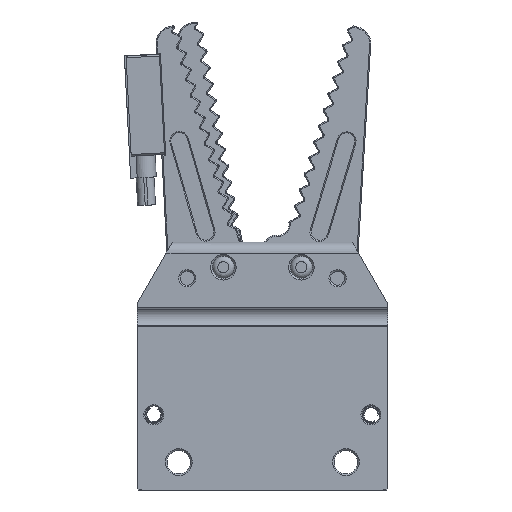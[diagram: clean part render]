
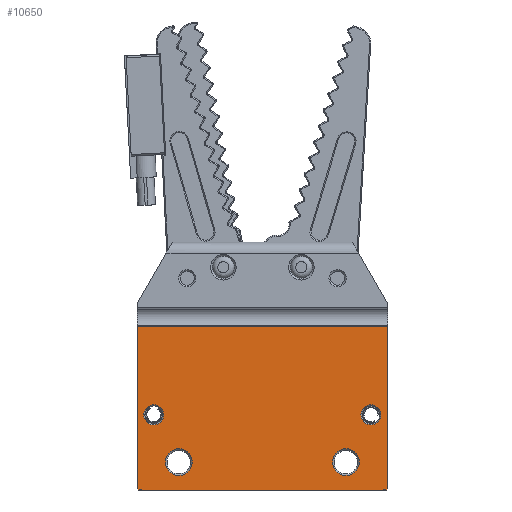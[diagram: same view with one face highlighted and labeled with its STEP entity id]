
A CAD part, front view. The second image highlights one B-rep face of the part: STEP entity #10650.
In plain terms, the highlighted planar face has unit normal (0, -1, 0).
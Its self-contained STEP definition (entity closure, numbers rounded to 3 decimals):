
#9858=FACE_BOUND('',#13333,.T.);
#9859=FACE_BOUND('',#13334,.T.);
#9860=FACE_BOUND('',#13335,.T.);
#9861=FACE_BOUND('',#13336,.T.);
#9862=FACE_BOUND('',#13337,.T.);
#10650=ADVANCED_FACE('',(#9858,#9859,#9860,#9861,#9862),#11824,.F.);
#11824=PLANE('',#27785);
#13333=EDGE_LOOP('',(#18172,#18173,#18174,#18175,#18176,#18177));
#13334=EDGE_LOOP('',(#18178));
#13335=EDGE_LOOP('',(#18179));
#13336=EDGE_LOOP('',(#18180));
#13337=EDGE_LOOP('',(#18181));
#14999=LINE('',#36794,#16329);
#15006=LINE('',#36807,#16336);
#15009=LINE('',#36827,#16339);
#15010=LINE('',#36831,#16340);
#15011=LINE('',#36835,#16341);
#15012=LINE('',#36837,#16342);
#16329=VECTOR('',#30515,1.);
#16336=VECTOR('',#30526,1.);
#16339=VECTOR('',#30551,1.);
#16340=VECTOR('',#30556,1.);
#16341=VECTOR('',#30561,1.);
#16342=VECTOR('',#30564,1.);
#18172=ORIENTED_EDGE('',*,*,#24487,.F.);
#18173=ORIENTED_EDGE('',*,*,#24507,.F.);
#18174=ORIENTED_EDGE('',*,*,#24505,.F.);
#18175=ORIENTED_EDGE('',*,*,#24503,.F.);
#18176=ORIENTED_EDGE('',*,*,#24494,.T.);
#18177=ORIENTED_EDGE('',*,*,#24508,.F.);
#18178=ORIENTED_EDGE('',*,*,#24501,.F.);
#18179=ORIENTED_EDGE('',*,*,#24499,.F.);
#18180=ORIENTED_EDGE('',*,*,#24498,.F.);
#18181=ORIENTED_EDGE('',*,*,#24497,.F.);
#22746=VERTEX_POINT('',#36792);
#22748=VERTEX_POINT('',#36795);
#22752=VERTEX_POINT('',#36808);
#22753=VERTEX_POINT('',#36809);
#22754=VERTEX_POINT('',#36814);
#22755=VERTEX_POINT('',#36817);
#22756=VERTEX_POINT('',#36820);
#22757=VERTEX_POINT('',#36824);
#22758=VERTEX_POINT('',#36828);
#22759=VERTEX_POINT('',#36832);
#24487=EDGE_CURVE('',#22746,#22748,#14999,.T.);
#24494=EDGE_CURVE('',#22752,#22753,#15006,.T.);
#24497=EDGE_CURVE('',#22754,#22754,#26698,.T.);
#24498=EDGE_CURVE('',#22755,#22755,#26699,.T.);
#24499=EDGE_CURVE('',#22756,#22756,#26700,.T.);
#24501=EDGE_CURVE('',#22757,#22757,#26702,.T.);
#24503=EDGE_CURVE('',#22752,#22758,#15009,.T.);
#24505=EDGE_CURVE('',#22758,#22759,#15010,.T.);
#24507=EDGE_CURVE('',#22759,#22746,#15011,.T.);
#24508=EDGE_CURVE('',#22748,#22753,#15012,.T.);
#26698=CIRCLE('',#27769,2.4);
#26699=CIRCLE('',#27771,2.4);
#26700=CIRCLE('',#27773,1.8);
#26702=CIRCLE('',#27776,1.8);
#27769=AXIS2_PLACEMENT_3D('',#36813,#30531,#30532);
#27771=AXIS2_PLACEMENT_3D('',#36816,#30535,#30536);
#27773=AXIS2_PLACEMENT_3D('',#36819,#30539,#30540);
#27776=AXIS2_PLACEMENT_3D('',#36823,#30545,#30546);
#27785=AXIS2_PLACEMENT_3D('',#36839,#30567,#30568);
#30515=DIRECTION('',(-0.707,0.,-0.707));
#30526=DIRECTION('',(0.707,0.,-0.707));
#30531=DIRECTION('',(0.,-1.,0.));
#30532=DIRECTION('',(0.,0.,1.));
#30535=DIRECTION('',(0.,-1.,0.));
#30536=DIRECTION('',(0.,0.,1.));
#30539=DIRECTION('',(0.,-1.,0.));
#30540=DIRECTION('',(0.,0.,1.));
#30545=DIRECTION('',(0.,-1.,0.));
#30546=DIRECTION('',(0.,0.,1.));
#30551=DIRECTION('',(0.,0.,1.));
#30556=DIRECTION('',(1.,0.,0.));
#30561=DIRECTION('',(0.,0.,-1.));
#30564=DIRECTION('',(-1.,0.,0.));
#30567=DIRECTION('',(0.,1.,0.));
#30568=DIRECTION('',(-1.,0.,0.));
#36792=CARTESIAN_POINT('',(22.5,-12.5,-44.3));
#36794=CARTESIAN_POINT('',(22.5,-12.5,-44.3));
#36795=CARTESIAN_POINT('',(22.3,-12.5,-44.5));
#36807=CARTESIAN_POINT('',(-22.3,-12.5,-44.5));
#36808=CARTESIAN_POINT('',(-22.5,-12.5,-44.3));
#36809=CARTESIAN_POINT('',(-22.3,-12.5,-44.5));
#36813=CARTESIAN_POINT('',(15.,-12.5,-39.5));
#36814=CARTESIAN_POINT('',(15.,-12.5,-37.1));
#36816=CARTESIAN_POINT('',(-15.,-12.5,-39.5));
#36817=CARTESIAN_POINT('',(-15.,-12.5,-37.1));
#36819=CARTESIAN_POINT('',(19.5,-12.5,-31.));
#36820=CARTESIAN_POINT('',(19.5,-12.5,-29.2));
#36823=CARTESIAN_POINT('',(-19.5,-12.5,-31.));
#36824=CARTESIAN_POINT('',(-19.5,-12.5,-29.2));
#36827=CARTESIAN_POINT('',(-22.5,-12.5,-44.5));
#36828=CARTESIAN_POINT('',(-22.5,-12.5,-15.2));
#36831=CARTESIAN_POINT('',(22.5,-12.5,-15.2));
#36832=CARTESIAN_POINT('',(22.5,-12.5,-15.2));
#36835=CARTESIAN_POINT('',(22.5,-12.5,-44.5));
#36837=CARTESIAN_POINT('',(22.5,-12.5,-44.5));
#36839=CARTESIAN_POINT('',(22.5,-12.5,-44.5));
